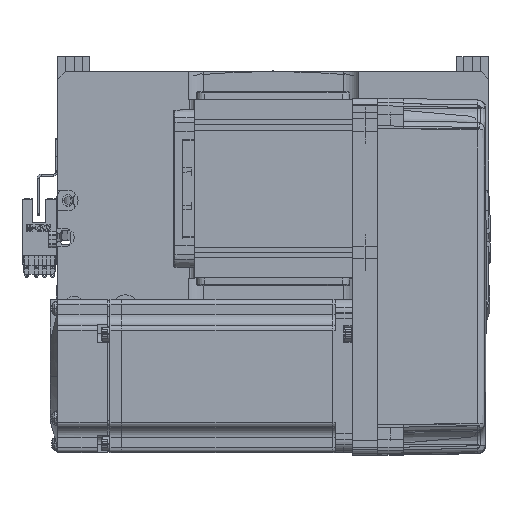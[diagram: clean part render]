
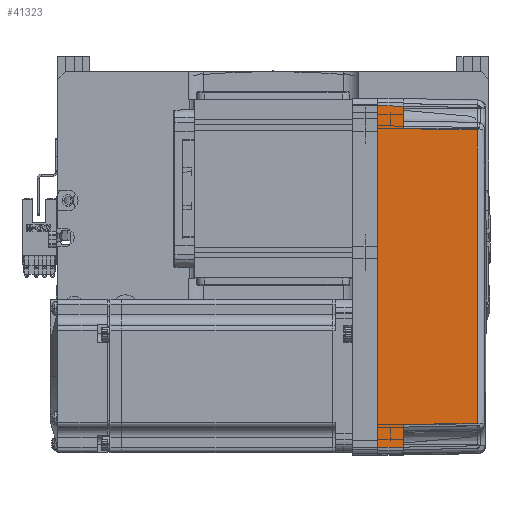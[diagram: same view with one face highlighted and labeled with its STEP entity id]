
A CAD part, top view. The second image highlights one B-rep face of the part: STEP entity #41323.
In plain terms, the highlighted planar face has unit normal (0.018, 0, 1) as drawn and (0, 1, 0.017) by its records, which use the part's own axes.
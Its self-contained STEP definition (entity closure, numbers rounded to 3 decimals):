
#665 = LINE ( 'NONE', #45212, #61246 ) ;
#2619 = PLANE ( 'NONE',  #13132 ) ;
#2686 = VECTOR ( 'NONE', #64163, 1000. ) ;
#3041 = CARTESIAN_POINT ( 'NONE',  ( -67., 36., 0. ) ) ;
#3996 = CARTESIAN_POINT ( 'NONE',  ( 67., 36., 0. ) ) ;
#4335 = CARTESIAN_POINT ( 'NONE',  ( 70., 35.825, 10. ) ) ;
#5875 = VERTEX_POINT ( 'NONE', #41452 ) ;
#6899 = ORIENTED_EDGE ( 'NONE', *, *, #54662, .T. ) ;
#8231 = ORIENTED_EDGE ( 'NONE', *, *, #12336, .T. ) ;
#9774 = CARTESIAN_POINT ( 'NONE',  ( -57.495, 35.32, 38.985 ) ) ;
#10502 = LINE ( 'NONE', #56168, #35937 ) ;
#11616 = CARTESIAN_POINT ( 'NONE',  ( 67.001, 36.001, -0.052 ) ) ;
#12336 = EDGE_CURVE ( 'NONE', #65617, #5875, #36324, .T. ) ;
#13132 = AXIS2_PLACEMENT_3D ( 'NONE', #44516, #60495, #43855 ) ;
#13881 = ORIENTED_EDGE ( 'NONE', *, *, #18790, .F. ) ;
#14302 = VECTOR ( 'NONE', #29157, 1000. ) ;
#14990 = VECTOR ( 'NONE', #25645, 1000. ) ;
#16175 = EDGE_LOOP ( 'NONE', ( #45091, #56615, #58252, #53272, #6899, #8231, #24723, #13881 ) ) ;
#18790 = EDGE_CURVE ( 'NONE', #38223, #36760, #66098, .T. ) ;
#19453 = EDGE_CURVE ( 'NONE', #36760, #5875, #30556, .T. ) ;
#23664 = CARTESIAN_POINT ( 'NONE',  ( 57.495, 35.32, 38.985 ) ) ;
#24109 = CARTESIAN_POINT ( 'NONE',  ( 19.165, 35.316, 39.181 ) ) ;
#24398 = DIRECTION ( 'NONE',  ( 0.017, 0.017, -1. ) ) ;
#24712 = FACE_OUTER_BOUND ( 'NONE', #16175, .T. ) ;
#24723 = ORIENTED_EDGE ( 'NONE', *, *, #19453, .F. ) ;
#24806 = DIRECTION ( 'NONE',  ( 0.017, -0.017, 1. ) ) ;
#25645 = DIRECTION ( 'NONE',  ( 1., 0., 0. ) ) ;
#28018 = VERTEX_POINT ( 'NONE', #9774 ) ;
#28526 = VERTEX_POINT ( 'NONE', #36112 ) ;
#28924 = EDGE_CURVE ( 'NONE', #28018, #28526, #38376, .T. ) ;
#28966 = DIRECTION ( 'NONE',  ( 1., 0., 0. ) ) ;
#29157 = DIRECTION ( 'NONE',  ( 0.017, -0.017, 1. ) ) ;
#29276 = CARTESIAN_POINT ( 'NONE',  ( -58., 35.825, 10. ) ) ;
#30556 = LINE ( 'NONE', #11616, #2686 ) ;
#31890 = EDGE_CURVE ( 'NONE', #54340, #66288, #665, .T. ) ;
#33476 = VECTOR ( 'NONE', #50921, 1000. ) ;
#35248 = CARTESIAN_POINT ( 'NONE',  ( 58., 35.825, 10. ) ) ;
#35937 = VECTOR ( 'NONE', #24398, 1000. ) ;
#36112 = CARTESIAN_POINT ( 'NONE',  ( 57.495, 35.32, 38.985 ) ) ;
#36324 = LINE ( 'NONE', #4335, #14990 ) ;
#36605 = VECTOR ( 'NONE', #24806, 1000. ) ;
#36760 = VERTEX_POINT ( 'NONE', #3996 ) ;
#38223 = VERTEX_POINT ( 'NONE', #57566 ) ;
#38376 = B_SPLINE_CURVE_WITH_KNOTS ( 'NONE', 3,
 ( #49319, #65449, #24109, #23664 ),
 .UNSPECIFIED., .F., .F.,
 ( 4, 4 ),
 ( 0., 1. ),
 .UNSPECIFIED. ) ;
#41323 = ADVANCED_FACE ( 'NONE', ( #24712 ), #2619, .T. ) ;
#41452 = CARTESIAN_POINT ( 'NONE',  ( 66.826, 35.825, 10. ) ) ;
#42326 = CARTESIAN_POINT ( 'NONE',  ( -66.826, 35.825, 10. ) ) ;
#43855 = DIRECTION ( 'NONE',  ( 0., -0.017, 1. ) ) ;
#44516 = CARTESIAN_POINT ( 'NONE',  ( 70., 36., 0. ) ) ;
#45091 = ORIENTED_EDGE ( 'NONE', *, *, #46033, .T. ) ;
#45118 = EDGE_CURVE ( 'NONE', #66288, #28018, #67584, .T. ) ;
#45212 = CARTESIAN_POINT ( 'NONE',  ( 70., 35.825, 10. ) ) ;
#45478 = LINE ( 'NONE', #3041, #14302 ) ;
#46033 = EDGE_CURVE ( 'NONE', #38223, #54340, #45478, .T. ) ;
#49319 = CARTESIAN_POINT ( 'NONE',  ( -57.495, 35.32, 38.985 ) ) ;
#50895 = CARTESIAN_POINT ( 'NONE',  ( -58., 35.825, 10. ) ) ;
#50921 = DIRECTION ( 'NONE',  ( 1., 0., 0. ) ) ;
#53272 = ORIENTED_EDGE ( 'NONE', *, *, #28924, .T. ) ;
#54340 = VERTEX_POINT ( 'NONE', #42326 ) ;
#54662 = EDGE_CURVE ( 'NONE', #28526, #65617, #10502, .T. ) ;
#56168 = CARTESIAN_POINT ( 'NONE',  ( 57.495, 35.32, 38.985 ) ) ;
#56615 = ORIENTED_EDGE ( 'NONE', *, *, #31890, .T. ) ;
#57566 = CARTESIAN_POINT ( 'NONE',  ( -67., 36., 0. ) ) ;
#58252 = ORIENTED_EDGE ( 'NONE', *, *, #45118, .T. ) ;
#60495 = DIRECTION ( 'NONE',  ( 0., 1., 0.017 ) ) ;
#61246 = VECTOR ( 'NONE', #28966, 1000. ) ;
#61841 = CARTESIAN_POINT ( 'NONE',  ( 0., 36., 0. ) ) ;
#64163 = DIRECTION ( 'NONE',  ( -0.017, -0.017, 1. ) ) ;
#65449 = CARTESIAN_POINT ( 'NONE',  ( -19.165, 35.316, 39.181 ) ) ;
#65617 = VERTEX_POINT ( 'NONE', #35248 ) ;
#66098 = LINE ( 'NONE', #61841, #33476 ) ;
#66288 = VERTEX_POINT ( 'NONE', #29276 ) ;
#67584 = LINE ( 'NONE', #50895, #36605 ) ;
